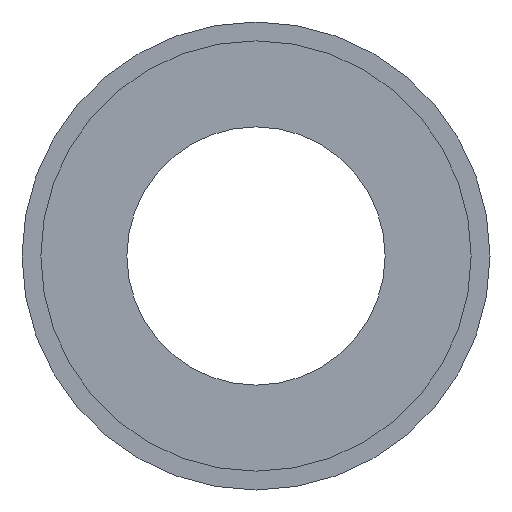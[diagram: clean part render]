
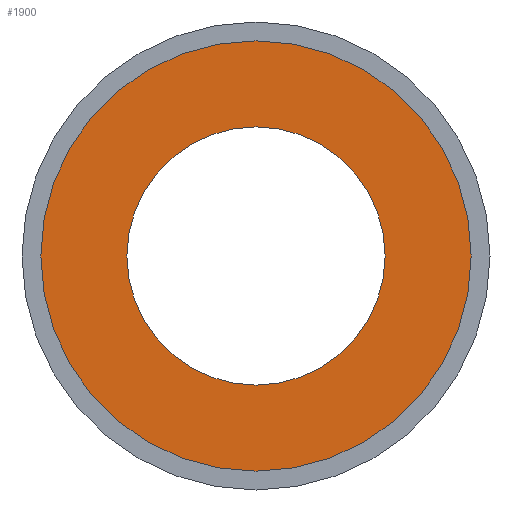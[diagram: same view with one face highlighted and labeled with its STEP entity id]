
A CAD part, front view. The second image highlights one B-rep face of the part: STEP entity #1900.
In plain terms, the highlighted planar face has unit normal (0, -1, 0).
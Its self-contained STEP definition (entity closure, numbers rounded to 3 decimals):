
#153 = CARTESIAN_POINT ( 'NONE',  ( 0., -16.5, 0. ) ) ;
#192 = CIRCLE ( 'NONE', #1397, 24. ) ;
#345 = DIRECTION ( 'NONE',  ( 0., 0., 1. ) ) ;
#382 = EDGE_CURVE ( 'NONE', #2638, #2312, #192, .T. ) ;
#557 = EDGE_LOOP ( 'NONE', ( #1650, #3229 ) ) ;
#609 = CARTESIAN_POINT ( 'NONE',  ( 0., -16.5, 0. ) ) ;
#615 = EDGE_LOOP ( 'NONE', ( #1089, #2026 ) ) ;
#779 = CIRCLE ( 'NONE', #2428, 40. ) ;
#820 = CARTESIAN_POINT ( 'NONE',  ( 0., -16.5, 24. ) ) ;
#1083 = DIRECTION ( 'NONE',  ( 0., 1., 0. ) ) ;
#1089 = ORIENTED_EDGE ( 'NONE', *, *, #1912, .T. ) ;
#1149 = FACE_OUTER_BOUND ( 'NONE', #615, .T. ) ;
#1397 = AXIS2_PLACEMENT_3D ( 'NONE', #153, #1926, #2501 ) ;
#1552 = VERTEX_POINT ( 'NONE', #2332 ) ;
#1586 = DIRECTION ( 'NONE',  ( 0., 0., -1. ) ) ;
#1637 = CARTESIAN_POINT ( 'NONE',  ( 0., -16.5, 0. ) ) ;
#1650 = ORIENTED_EDGE ( 'NONE', *, *, #2069, .F. ) ;
#1817 = CARTESIAN_POINT ( 'NONE',  ( 0., -16.5, 0. ) ) ;
#1895 = CARTESIAN_POINT ( 'NONE',  ( 0., -16.5, -40. ) ) ;
#1900 = ADVANCED_FACE ( 'NONE', ( #2803, #1149 ), #2830, .F. ) ;
#1905 = EDGE_CURVE ( 'NONE', #1552, #2096, #2126, .T. ) ;
#1912 = EDGE_CURVE ( 'NONE', #2096, #1552, #779, .T. ) ;
#1926 = DIRECTION ( 'NONE',  ( 0., -1., 0. ) ) ;
#2026 = ORIENTED_EDGE ( 'NONE', *, *, #1905, .T. ) ;
#2069 = EDGE_CURVE ( 'NONE', #2312, #2638, #2214, .T. ) ;
#2072 = AXIS2_PLACEMENT_3D ( 'NONE', #820, #1083, #345 ) ;
#2096 = VERTEX_POINT ( 'NONE', #1895 ) ;
#2121 = DIRECTION ( 'NONE',  ( 0., -1., 0. ) ) ;
#2126 = CIRCLE ( 'NONE', #2500, 40. ) ;
#2129 = DIRECTION ( 'NONE',  ( 0., -1., 0. ) ) ;
#2157 = DIRECTION ( 'NONE',  ( 0., 0., -1. ) ) ;
#2214 = CIRCLE ( 'NONE', #2217, 24. ) ;
#2217 = AXIS2_PLACEMENT_3D ( 'NONE', #1637, #2129, #2157 ) ;
#2312 = VERTEX_POINT ( 'NONE', #2466 ) ;
#2332 = CARTESIAN_POINT ( 'NONE',  ( 0., -16.5, 40. ) ) ;
#2334 = DIRECTION ( 'NONE',  ( 0., 0., -1. ) ) ;
#2428 = AXIS2_PLACEMENT_3D ( 'NONE', #609, #3139, #2334 ) ;
#2466 = CARTESIAN_POINT ( 'NONE',  ( 0., -16.5, -24. ) ) ;
#2472 = CARTESIAN_POINT ( 'NONE',  ( 0., -16.5, 24. ) ) ;
#2500 = AXIS2_PLACEMENT_3D ( 'NONE', #1817, #2121, #1586 ) ;
#2501 = DIRECTION ( 'NONE',  ( 0., 0., -1. ) ) ;
#2638 = VERTEX_POINT ( 'NONE', #2472 ) ;
#2803 = FACE_BOUND ( 'NONE', #557, .T. ) ;
#2830 = PLANE ( 'NONE',  #2072 ) ;
#3139 = DIRECTION ( 'NONE',  ( 0., -1., 0. ) ) ;
#3229 = ORIENTED_EDGE ( 'NONE', *, *, #382, .F. ) ;
